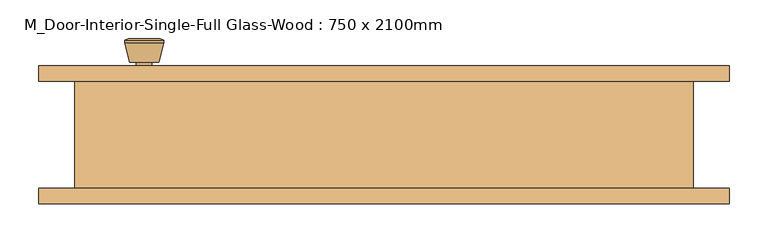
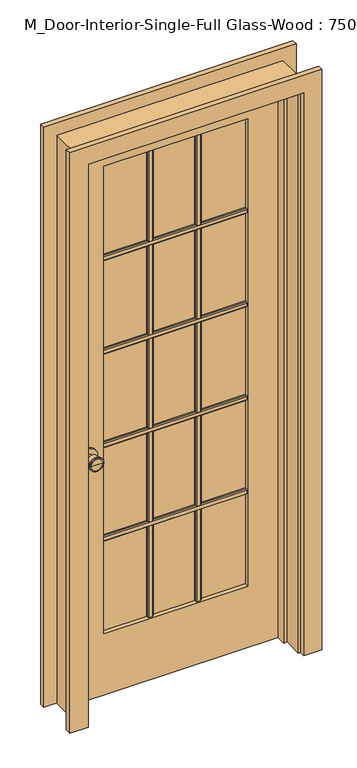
"""IFC4 building model written with IfcOpenShell, lengths in millimetres: door geometry, M_Door-Interior-Single-Full Glass-Wood : 750 x 2100mm."""

from ifc_helpers import new_model, si_unit, point, frame, frame_2d, origin, place, context, project, spatial, polyline, circle_curve, trimmed, segment, composite_curve, outline, extrude, faceted_brep, source, transform, mapped, element, save
from ifc_brep_helpers import plane_surface, cylinder_surface, revolved_surface, advanced_brep


def m_door_interior_single_full_glass_wood_750_x_2100mm_ded28596(model_context):
    return source(origin(), model_context, "Body", "SolidModel", [
        extrude(outline(polyline([(52.075, 1639.525), (58.425, 1639.525), (61.6, 1636.35), (61.6, 1623.65), (58.425, 1620.475), (52.075, 1620.475), (52.075, 1639.525)])), frame((-255.0, 0.0, 0.0), z_axis=(1.0, 0.0, 0.0), x_axis=(0.0, 1.0, 0.0)), (0.0, 0.0, 1.0), 510.0),
        extrude(outline(polyline([(52.075, 1289.525), (58.425, 1289.525), (61.6, 1286.35), (61.6, 1273.65), (58.425, 1270.475), (52.075, 1270.475), (52.075, 1289.525)])), frame((-255.0, 0.0, 0.0), z_axis=(1.0, 0.0, 0.0), x_axis=(0.0, 1.0, 0.0)), (0.0, 0.0, 1.0), 510.0),
        extrude(outline(polyline([(52.075, 939.525), (58.425, 939.525), (61.6, 936.35), (61.6, 923.65), (58.425, 920.475), (52.075, 920.475), (52.075, 939.525)])), frame((-255.0, 0.0, 0.0), z_axis=(1.0, 0.0, 0.0), x_axis=(0.0, 1.0, 0.0)), (0.0, 0.0, 1.0), 510.0),
        extrude(outline(polyline([(52.075, 589.525), (58.425, 589.525), (61.6, 586.35), (61.6, 573.65), (58.425, 570.475), (52.075, 570.475), (52.075, 589.525)])), frame((-255.0, 0.0, 0.0), z_axis=(1.0, 0.0, 0.0), x_axis=(0.0, 1.0, 0.0)), (0.0, 0.0, 1.0), 510.0),
        extrude(outline(polyline([(75.475, 52.075), (75.475, 58.425), (78.65, 61.6), (91.35, 61.6), (94.525, 58.425), (94.525, 52.075), (75.475, 52.075)])), frame((0.0, 0.0, 230.0), z_axis=(0.0, 0.0, 1.0), x_axis=(1.0, 0.0, 0.0)), (0.0, 0.0, 1.0), 1750.0),
        extrude(outline(polyline([(-94.525, 52.075), (-94.525, 58.425), (-91.35, 61.6), (-78.65, 61.6), (-75.475, 58.425), (-75.475, 52.075), (-94.525, 52.075)])), frame((0.0, 0.0, 230.0), z_axis=(0.0, 0.0, 1.0), x_axis=(1.0, 0.0, 0.0)), (0.0, 0.0, 1.0), 1750.0),
        extrude(outline(polyline([(45.075, 1639.525), (45.075, 1620.475), (38.725, 1620.475), (35.55, 1623.65), (35.55, 1636.35), (38.725, 1639.525), (45.075, 1639.525)])), frame((-255.0, 0.0, 0.0), z_axis=(1.0, 0.0, 0.0), x_axis=(0.0, 1.0, 0.0)), (0.0, 0.0, 1.0), 510.0),
        extrude(outline(polyline([(45.075, 1289.525), (45.075, 1270.475), (38.725, 1270.475), (35.55, 1273.65), (35.55, 1286.35), (38.725, 1289.525), (45.075, 1289.525)])), frame((-255.0, 0.0, 0.0), z_axis=(1.0, 0.0, 0.0), x_axis=(0.0, 1.0, 0.0)), (0.0, 0.0, 1.0), 510.0),
        extrude(outline(polyline([(45.075, 939.525), (45.075, 920.475), (38.725, 920.475), (35.55, 923.65), (35.55, 936.35), (38.725, 939.525), (45.075, 939.525)])), frame((-255.0, 0.0, 0.0), z_axis=(1.0, 0.0, 0.0), x_axis=(0.0, 1.0, 0.0)), (0.0, 0.0, 1.0), 510.0),
        extrude(outline(polyline([(45.075, 589.525), (45.075, 570.475), (38.725, 570.475), (35.55, 573.65), (35.55, 586.35), (38.725, 589.525), (45.075, 589.525)])), frame((-255.0, 0.0, 0.0), z_axis=(1.0, 0.0, 0.0), x_axis=(0.0, 1.0, 0.0)), (0.0, 0.0, 1.0), 510.0),
        extrude(outline(polyline([(75.475, 45.075), (94.525, 45.075), (94.525, 38.725), (91.35, 35.55), (78.65, 35.55), (75.475, 38.725), (75.475, 45.075)])), frame((0.0, 0.0, 230.0), z_axis=(0.0, 0.0, 1.0), x_axis=(1.0, 0.0, 0.0)), (0.0, 0.0, 1.0), 1750.0),
        extrude(outline(polyline([(-94.525, 45.075), (-75.475, 45.075), (-75.475, 38.725), (-78.65, 35.55), (-91.35, 35.55), (-94.525, 38.725), (-94.525, 45.075)])), frame((0.0, 0.0, 230.0), z_axis=(0.0, 0.0, 1.0), x_axis=(1.0, 0.0, 0.0)), (0.0, 0.0, 1.0), 1750.0),
        advanced_brep(
        [(-310.0, 25.075, 914.4), (-300.0, 25.075, 914.4), (-320.0, 25.075, 914.4), (-289.5241324, -23.925, 914.4), (-310.0, -23.925, 914.4), (-330.4758676, -23.925, 914.4), (-285.0, -22.0971319, 914.4), (-335.0, -22.0971319, 914.4), (-285.0, -18.6334537, 914.4), (-335.0, -18.6334537, 914.4), (-291.363764, 6.075, 914.4), (-328.636236, 6.075, 914.4), (-300.0, 6.075, 914.4), (-320.0, 6.075, 914.4)],
        [
            (0, 1),
            (1, 2, circle_curve(frame((-310.0, 25.075, 914.4), z_axis=(0.0, 1.0, 0.0), x_axis=(-1.0, 0.0, 0.0)), 10.0)),
            (2, 0),
            (2, 1, circle_curve(frame((-310.0, 25.075, 914.4), z_axis=(0.0, 1.0, 0.0), x_axis=(-1.0, 0.0, 0.0)), 10.0)),
            (3, 4),
            (4, 5),
            (5, 3, circle_curve(frame((-310.0, -23.925, 914.4), z_axis=(0.0, -1.0, 0.0), x_axis=(-1.0, 0.0, 0.0)), 20.4758676)),
            (3, 5, circle_curve(frame((-310.0, -23.925, 914.4), z_axis=(0.0, -1.0, 0.0), x_axis=(-1.0, 0.0, 0.0)), 20.4758676)),
            (6, 3),
            (5, 7),
            (7, 6, circle_curve(frame((-310.0, -22.0971319, 914.4), z_axis=(0.0, -1.0, 0.0), x_axis=(-1.0, 0.0, 0.0)), 25.0)),
            (6, 7, circle_curve(frame((-310.0, -22.0971319, 914.4), z_axis=(0.0, -1.0, 0.0), x_axis=(-1.0, 0.0, 0.0)), 25.0)),
            (8, 6),
            (7, 9),
            (9, 8, circle_curve(frame((-310.0, -18.6334537, 914.4), z_axis=(0.0, -1.0, 0.0), x_axis=(-1.0, 0.0, 0.0)), 25.0)),
            (8, 9, circle_curve(frame((-310.0, -18.6334537, 914.4), z_axis=(0.0, -1.0, 0.0), x_axis=(-1.0, 0.0, 0.0)), 25.0)),
            (10, 8),
            (9, 11),
            (11, 10, circle_curve(frame((-310.0, 6.075, 914.4), z_axis=(0.0, -1.0, 0.0), x_axis=(-1.0, 0.0, 0.0)), 18.636236)),
            (10, 11, circle_curve(frame((-310.0, 6.075, 914.4), z_axis=(0.0, -1.0, 0.0), x_axis=(-1.0, 0.0, 0.0)), 18.636236)),
            (12, 10),
            (11, 13),
            (13, 12, circle_curve(frame((-310.0, 6.075, 914.4), z_axis=(0.0, -1.0, 0.0), x_axis=(-1.0, 0.0, 0.0)), 10.0)),
            (12, 13, circle_curve(frame((-310.0, 6.075, 914.4), z_axis=(0.0, -1.0, 0.0), x_axis=(-1.0, 0.0, 0.0)), 10.0)),
            (1, 12),
            (13, 2),
        ],
        [
            plane_surface(frame((-310.0, 25.075, 914.4), z_axis=(0.0, 1.0, 0.0), x_axis=(-1.0, 0.0, 0.0))),
            plane_surface(frame((-310.0, -23.925, 914.4), z_axis=(0.0, -1.0, 0.0), x_axis=(-1.0, 0.0, 0.0))),
            revolved_surface(polyline([(-330.4758676, -23.925, 914.4), (-335.0, -22.0971319, 914.4)]), (-310.0, 25.075, 914.4), (0.0, 1.0, 0.0)),
            cylinder_surface(frame((-310.0, 25.075, 914.4), z_axis=(0.0, 1.0, 0.0), x_axis=(-1.0, 0.0, 0.0)), 25.0),
            revolved_surface(polyline([(-335.0, -18.6334537, 914.4), (-328.636236, 6.075, 914.4)]), (-310.0, 25.075, 914.4), (0.0, 1.0, 0.0)),
            plane_surface(frame((-310.0, 6.075, 914.4), z_axis=(0.0, 1.0, 0.0), x_axis=(-1.0, 0.0, 0.0))),
            cylinder_surface(frame((-310.0, 25.075, 914.4), z_axis=(0.0, 1.0, 0.0), x_axis=(-1.0, 0.0, 0.0)), 10.0),
        ],
        [
            (0, [[1, 2, 3]]),
            (0, [[-3, 4, -1]]),
            (1, [[5, 6, 7]]),
            (1, [[-6, -5, 8]]),
            (2, [[9, -7, 10, 11]]),
            (2, [[-10, -8, -9, 12]]),
            (3, [[13, -11, 14, 15]]),
            (3, [[-14, -12, -13, 16]]),
            (4, [[17, -15, 18, 19]]),
            (4, [[-18, -16, -17, 20]]),
            (5, [[21, -19, 22, 23]]),
            (5, [[-22, -20, -21, 24]]),
            (6, [[25, -23, 26, -2]]),
            (6, [[-26, -24, -25, -4]]),
        ],
    ),
        extrude(outline(composite_curve([segment(trimmed(circle_curve(frame_2d((914.4, -310.0)), 30.0), [point((914.4, -340.0))], [point((914.4, -280.0))], False, "CARTESIAN"), True, "CONTINUOUS"), segment(trimmed(circle_curve(frame_2d((914.4, -310.0)), 30.0), [point((914.4, -280.0))], [point((914.4, -340.0))], False, "CARTESIAN"), True, "CONTINUOUS")], self_intersect=False)), frame((0.0, 25.075, 0.0), z_axis=(0.0, 1.0, 0.0), x_axis=(0.0, 0.0, 1.0)), (0.0, 0.0, 1.0), 6.0),
        advanced_brep(
        [(-310.0, 72.075, 914.4), (-320.0, 72.075, 914.4), (-300.0, 72.075, 914.4), (-289.5241324, 121.075, 914.4), (-330.4758676, 121.075, 914.4), (-310.0, 121.075, 914.4), (-285.0, 119.2471319, 914.4), (-335.0, 119.2471319, 914.4), (-285.0, 115.7834537, 914.4), (-335.0, 115.7834537, 914.4), (-291.363764, 91.075, 914.4), (-328.636236, 91.075, 914.4), (-300.0, 91.075, 914.4), (-320.0, 91.075, 914.4)],
        [
            (0, 1),
            (1, 2, circle_curve(frame((-310.0, 72.075, 914.4), z_axis=(0.0, -1.0, 0.0), x_axis=(-1.0, 0.0, 0.0)), 10.0)),
            (2, 0),
            (2, 1, circle_curve(frame((-310.0, 72.075, 914.4), z_axis=(0.0, -1.0, 0.0), x_axis=(-1.0, 0.0, 0.0)), 10.0)),
            (3, 4, circle_curve(frame((-310.0, 121.075, 914.4), z_axis=(0.0, 1.0, 0.0), x_axis=(-1.0, 0.0, 0.0)), 20.4758676)),
            (4, 5),
            (5, 3),
            (4, 3, circle_curve(frame((-310.0, 121.075, 914.4), z_axis=(0.0, 1.0, 0.0), x_axis=(-1.0, 0.0, 0.0)), 20.4758676)),
            (6, 7, circle_curve(frame((-310.0, 119.2471319, 914.4), z_axis=(0.0, 1.0, 0.0), x_axis=(-1.0, 0.0, 0.0)), 25.0)),
            (7, 4),
            (3, 6),
            (7, 6, circle_curve(frame((-310.0, 119.2471319, 914.4), z_axis=(0.0, 1.0, 0.0), x_axis=(-1.0, 0.0, 0.0)), 25.0)),
            (8, 9, circle_curve(frame((-310.0, 115.7834537, 914.4), z_axis=(0.0, 1.0, 0.0), x_axis=(-1.0, 0.0, 0.0)), 25.0)),
            (9, 7),
            (6, 8),
            (9, 8, circle_curve(frame((-310.0, 115.7834537, 914.4), z_axis=(0.0, 1.0, 0.0), x_axis=(-1.0, 0.0, 0.0)), 25.0)),
            (10, 11, circle_curve(frame((-310.0, 91.075, 914.4), z_axis=(0.0, 1.0, 0.0), x_axis=(-1.0, 0.0, 0.0)), 18.636236)),
            (11, 9),
            (8, 10),
            (11, 10, circle_curve(frame((-310.0, 91.075, 914.4), z_axis=(0.0, 1.0, 0.0), x_axis=(-1.0, 0.0, 0.0)), 18.636236)),
            (12, 13, circle_curve(frame((-310.0, 91.075, 914.4), z_axis=(0.0, 1.0, 0.0), x_axis=(-1.0, 0.0, 0.0)), 10.0)),
            (13, 11),
            (10, 12),
            (13, 12, circle_curve(frame((-310.0, 91.075, 914.4), z_axis=(0.0, 1.0, 0.0), x_axis=(-1.0, 0.0, 0.0)), 10.0)),
            (1, 13),
            (12, 2),
        ],
        [
            plane_surface(frame((-310.0, 72.075, 914.4), z_axis=(0.0, -1.0, 0.0), x_axis=(-1.0, 0.0, 0.0))),
            plane_surface(frame((-310.0, 121.075, 914.4), z_axis=(0.0, 1.0, 0.0), x_axis=(-1.0, 0.0, 0.0))),
            revolved_surface(polyline([(-330.4758676, 121.075, 914.4), (-335.0, 119.2471319, 914.4)]), (-310.0, 72.075, 914.4), (0.0, -1.0, 0.0)),
            cylinder_surface(frame((-310.0, 72.075, 914.4), z_axis=(0.0, -1.0, 0.0), x_axis=(-1.0, 0.0, 0.0)), 25.0),
            revolved_surface(polyline([(-335.0, 115.7834537, 914.4), (-328.636236, 91.075, 914.4)]), (-310.0, 72.075, 914.4), (0.0, -1.0, 0.0)),
            plane_surface(frame((-310.0, 91.075, 914.4), z_axis=(0.0, -1.0, 0.0), x_axis=(-1.0, 0.0, 0.0))),
            cylinder_surface(frame((-310.0, 72.075, 914.4), z_axis=(0.0, -1.0, 0.0), x_axis=(-1.0, 0.0, 0.0)), 10.0),
        ],
        [
            (0, [[1, 2, 3]]),
            (0, [[-3, 4, -1]]),
            (1, [[5, 6, 7]]),
            (1, [[8, -7, -6]]),
            (2, [[9, 10, -5, 11]]),
            (2, [[12, -11, -8, -10]]),
            (3, [[13, 14, -9, 15]]),
            (3, [[16, -15, -12, -14]]),
            (4, [[17, 18, -13, 19]]),
            (4, [[20, -19, -16, -18]]),
            (5, [[21, 22, -17, 23]]),
            (5, [[24, -23, -20, -22]]),
            (6, [[-2, 25, -21, 26]]),
            (6, [[-4, -26, -24, -25]]),
        ],
    ),
        extrude(outline(composite_curve([segment(trimmed(circle_curve(frame_2d((914.4, -310.0)), 30.0), [point((914.4, -340.0))], [point((914.4, -280.0))], False, "CARTESIAN"), True, "CONTINUOUS"), segment(trimmed(circle_curve(frame_2d((914.4, -310.0)), 30.0), [point((914.4, -280.0))], [point((914.4, -340.0))], False, "CARTESIAN"), True, "CONTINUOUS")], self_intersect=False)), frame((0.0, 66.075, 0.0), z_axis=(0.0, 1.0, 0.0), x_axis=(0.0, 0.0, 1.0)), (0.0, 0.0, 1.0), 6.0),
        extrude(outline(polyline([(2100.0, -375.0), (0.0, -375.0), (0.0, 375.0), (2100.0, 375.0), (2100.0, -375.0)]), holes=[polyline([(1980.0, -255.0), (1980.0, 255.0), (230.0, 255.0), (230.0, -255.0), (1980.0, -255.0)])]), frame((0.0, 31.075, 0.0), z_axis=(0.0, 1.0, 0.0), x_axis=(0.0, 0.0, 1.0)), (0.0, 0.0, 1.0), 35.0),
        faceted_brep([(400.0, 66.075, 0.0), (400.0, -72.425, 0.0), (375.0, -72.425, 0.0), (375.0, -3.85, 0.0), (362.3, -3.85, 0.0), (362.3, 31.075, 0.0), (375.0, 31.075, 0.0), (375.0, 66.075, 0.0), (400.0, 66.075, 2125.0), (400.0, -72.425, 2125.0), (-400.0, -72.425, 2125.0), (-400.0, -72.425, 0.0), (-375.0, -72.425, 0.0), (-375.0, -72.425, 2100.0), (375.0, -72.425, 2100.0), (375.0, -3.85, 2100.0), (-375.0, -3.85, 2100.0), (-375.0, -3.85, 0.0), (-362.3, -3.85, 0.0), (-362.3, -3.85, 2087.3), (362.3, -3.85, 2087.3), (362.3, 31.075, 2087.3), (-362.3, 31.075, 2087.3), (-362.3, 31.075, 0.0), (-375.0, 31.075, 0.0), (-375.0, 31.075, 2100.0), (375.0, 31.075, 2100.0), (375.0, 66.075, 2100.0), (-375.0, 66.075, 2100.0), (-375.0, 66.075, 0.0), (-400.0, 66.075, 0.0), (-400.0, 66.075, 2125.0)], [[[0, 1, 2, 3, 4, 5, 6, 7]], [[1, 0, 8, 9]], [[2, 1, 9, 10, 11, 12, 13, 14]], [[3, 2, 14, 15]], [[4, 3, 15, 16, 17, 18, 19, 20]], [[5, 4, 20, 21]], [[6, 5, 21, 22, 23, 24, 25, 26]], [[7, 6, 26, 27]], [[0, 7, 27, 28, 29, 30, 31, 8]], [[9, 8, 31, 10]], [[15, 14, 13, 16]], [[21, 20, 19, 22]], [[27, 26, 25, 28]], [[30, 29, 24, 23, 18, 17, 12, 11]], [[10, 31, 30, 11]], [[16, 13, 12, 17]], [[22, 19, 18, 23]], [[28, 25, 24, 29]]]),
        extrude(outline(polyline([(255.0, 45.075), (-255.0, 45.075), (-255.0, 52.075), (255.0, 52.075), (255.0, 45.075)])), frame((0.0, 0.0, 230.0), z_axis=(0.0, 0.0, 1.0), x_axis=(1.0, 0.0, 0.0)), (0.0, 0.0, 1.0), 1750.0),
        extrude(outline(polyline([(0.0, 381.35), (0.0, 446.35), (2171.35, 446.35), (2171.35, -446.35), (0.0, -446.35), (0.0, -381.35), (2106.35, -381.35), (2106.35, 381.35), (0.0, 381.35)])), frame((0.0, -92.425, 0.0), z_axis=(0.0, 1.0, 0.0), x_axis=(0.0, 0.0, 1.0)), (0.0, 0.0, 1.0), 20.0),
        extrude(outline(polyline([(0.0, 381.35), (0.0, 446.35), (2171.35, 446.35), (2171.35, -446.35), (0.0, -446.35), (0.0, -381.35), (2106.35, -381.35), (2106.35, 381.35), (0.0, 381.35)])), frame((0.0, 66.075, 0.0), z_axis=(0.0, 1.0, 0.0), x_axis=(0.0, 0.0, 1.0)), (0.0, 0.0, 1.0), 20.0),
    ])


if __name__ == "__main__":
    model = new_model("IFC4")
    model_context = context("Model", 3, world=origin())
    ifc_project = project(units=[si_unit("LENGTHUNIT", "METRE", prefix="MILLI")], contexts=[model_context])
    site = spatial("IfcSite", under=ifc_project)
    building = spatial("IfcBuilding", under=site)
    placement = place(None, origin())
    m_door_interior_single_full_glass_wood_750_x_2100mm_shape = m_door_interior_single_full_glass_wood_750_x_2100mm_ded28596(model_context)
    element("IfcDoor", 1, ObjectType="M_Door-Interior-Single-Full Glass-Wood : 750 x 2100mm", at=placement, inside=building, context=model_context, shape_type="MappedRepresentation", body=[
        mapped(m_door_interior_single_full_glass_wood_750_x_2100mm_shape, transform((0.0, 0.0, 0.0), x_axis=(1.0, 0.0, 0.0), y_axis=(0.0, 1.0, 0.0), z_axis=(0.0, 0.0, 1.0))),
    ])
    save(model, "model.ifc")
